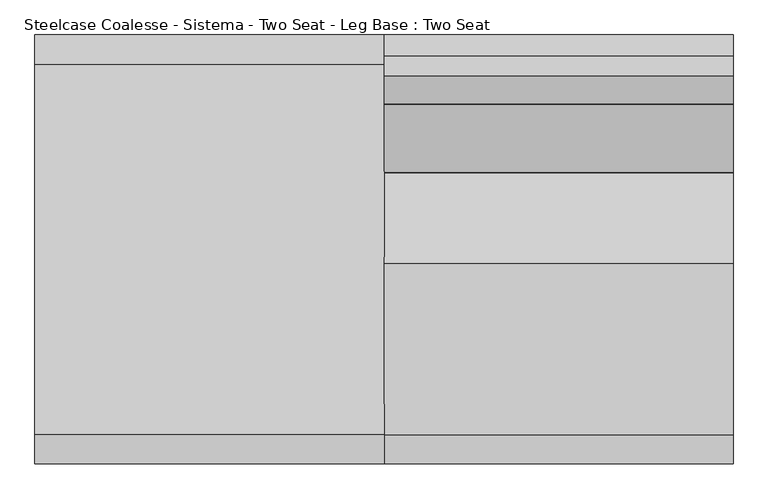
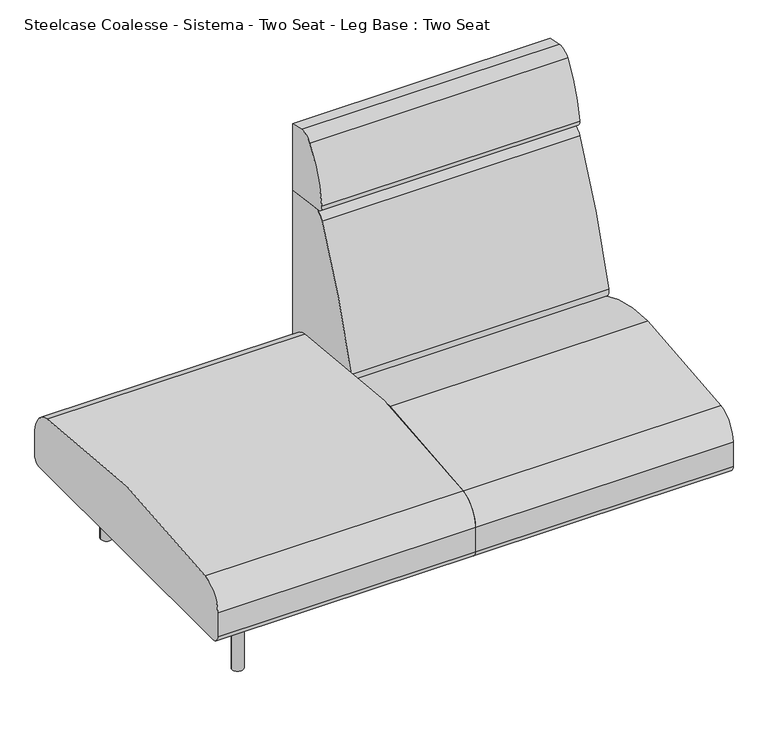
"""IFC4 building model written with IfcOpenShell, lengths in millimetres: furniture geometry, Steelcase Coalesse - Sistema - Two Seat - Leg Base : Two Seat."""

from ifc_helpers import new_model, si_unit, point, frame, frame_2d, origin, origin_with_axes, place, context, project, spatial, polyline, circle_curve, trimmed, segment, composite_curve, outline, extrude, source, transform, mapped, element, save


def steelcase_coalesse_sistema_two_seat_leg_base_two_seat_686d7517(model_context):
    return source(origin(), model_context, "Body", "SweptSolid", [
        extrude(outline(composite_curve([segment(trimmed(circle_curve(frame_2d((-438.9184381, 226.822)), 22.352), [point((-438.9184381, 204.47))], [point((-461.2704381, 226.822))], False, "CARTESIAN"), True, "CONTINUOUS"), segment(polyline([(-461.2704381, 226.822), (-461.2704381, 301.4421993)]), True, "CONTINUOUS"), segment(trimmed(circle_curve(frame_2d((-385.0704381, 301.4421993)), 76.2), [point((-461.2704381, 301.4421993))], [point((-398.9279534, 376.3715612))], False, "CARTESIAN"), True, "CONTINUOUS"), segment(trimmed(circle_curve(frame_2d((-0.3717831, -1778.6727457)), 2191.5891461), [point((-398.9279534, 376.3715612))], [point((397.0993513, 376.5719464))], False, "CARTESIAN"), True, "CONTINUOUS"), segment(trimmed(circle_curve(frame_2d((383.2795619, 301.6356173)), 76.2), [point((397.0993513, 376.5719464))], [point((459.4795619, 301.6356173))], False, "CARTESIAN"), True, "CONTINUOUS"), segment(polyline([(459.4795619, 301.6356173), (459.4795619, 226.7871991)]), True, "CONTINUOUS"), segment(trimmed(circle_curve(frame_2d((437.1623628, 226.7871991)), 22.3171991), [point((459.4795619, 226.7871991))], [point((437.1623628, 204.47))], False, "CARTESIAN"), True, "CONTINUOUS"), segment(polyline([(437.1623628, 204.47), (-438.9184381, 204.47)]), True, "CONTINUOUS")], self_intersect=False)), frame((-374.8034773, 0.0, 0.0), z_axis=(1.0, 0.0, 0.0), x_axis=(0.0, 1.0, 0.0)), (0.0, 0.0, 1.0), 749.3),
        extrude(outline(composite_curve([segment(polyline([(459.4795619, 985.4592709), (459.4795619, 780.845009), (327.9700683, 799.327463)]), True, "CONTINUOUS"), segment(trimmed(circle_curve(frame_2d((330.6213159, 818.1920697)), 19.05), [point((327.9700683, 799.327463))], [point((311.7521971, 820.8110119))], False, "CARTESIAN"), True, "CONTINUOUS"), segment(trimmed(circle_curve(frame_2d((679.5815991, 769.7580741)), 371.3554516), [point((311.7521971, 820.8110119))], [point((372.1246101, 978.0249014))], False, "CARTESIAN"), True, "CONTINUOUS"), segment(trimmed(circle_curve(frame_2d((405.8944569, 955.1497055)), 40.7881985), [point((372.1246101, 978.0249014))], [point((414.3748002, 995.046584))], False, "CARTESIAN"), True, "CONTINUOUS"), segment(polyline([(414.3748002, 995.046584), (459.4795619, 985.4592709)]), True, "CONTINUOUS")], self_intersect=False)), frame((374.4965227, 0.0, 0.0), z_axis=(1.0, 0.0, 0.0), x_axis=(0.0, 1.0, 0.0)), (0.0, 0.0, 1.0), 749.3),
        extrude(outline(composite_curve([segment(polyline([(459.4795619, 780.845009), (459.4795619, 228.1929806)]), True, "CONTINUOUS"), segment(trimmed(circle_curve(frame_2d((191.495971, 228.1929806)), 267.983591), [point((459.4795619, 228.1929806))], [point((458.9860775, 211.937276))], False, "CARTESIAN"), True, "CONTINUOUS"), segment(polyline([(458.9860775, 211.937276), (177.4990556, 364.1028799)]), True, "CONTINUOUS"), segment(trimmed(circle_curve(frame_2d((189.5778307, 386.4470781)), 25.4), [point((177.4990556, 364.1028799))], [point((164.9600055, 392.7018911))], False, "CARTESIAN"), True, "CONTINUOUS"), segment(trimmed(circle_curve(frame_2d((1918.112812, -52.7331923)), 1808.8552115), [point((164.9600055, 392.7018911))], [point((310.2880264, 776.0349508))], False, "CARTESIAN"), True, "CONTINUOUS"), segment(trimmed(circle_curve(frame_2d((344.1537133, 758.5785695)), 38.1), [point((310.2880264, 776.0349508))], [point((349.4562085, 796.3077829))], False, "CARTESIAN"), True, "CONTINUOUS"), segment(polyline([(349.4562085, 796.3077829), (459.4795619, 780.845009)]), True, "CONTINUOUS")], self_intersect=False)), frame((374.4965227, 0.0, 0.0), z_axis=(1.0, 0.0, 0.0), x_axis=(0.0, 1.0, 0.0)), (0.0, 0.0, 1.0), 749.3),
        extrude(outline(composite_curve([segment(trimmed(circle_curve(frame_2d((-438.9184381, 226.822)), 22.352), [point((-438.9184381, 204.47))], [point((-461.2704381, 226.822))], False, "CARTESIAN"), True, "CONTINUOUS"), segment(polyline([(-461.2704381, 226.822), (-461.2704381, 301.4421993)]), True, "CONTINUOUS"), segment(trimmed(circle_curve(frame_2d((-385.0704381, 301.4421993)), 76.2), [point((-461.2704381, 301.4421993))], [point((-398.9277015, 376.3716077))], False, "CARTESIAN"), True, "CONTINUOUS"), segment(trimmed(circle_curve(frame_2d((2.2103559, -1792.6740646)), 2205.8265729), [point((-398.9277015, 376.3716077))], [point((-31.1968175, 412.8995185))], False, "CARTESIAN"), True, "CONTINUOUS"), segment(trimmed(circle_curve(frame_2d((-24.5128424, -28.3829182)), 441.333054), [point((-31.1968175, 412.8995185))], [point((184.5757008, 360.2774035))], False, "CARTESIAN"), True, "CONTINUOUS"), segment(polyline([(184.5757008, 360.2774035), (458.9860775, 211.937276)]), True, "CONTINUOUS"), segment(trimmed(circle_curve(frame_2d((442.3266309, 226.7871991)), 22.3171991), [point((458.9860775, 211.937276))], [point((442.3266309, 204.47))], False, "CARTESIAN"), True, "CONTINUOUS"), segment(polyline([(442.3266309, 204.47), (-438.9184381, 204.47)]), True, "CONTINUOUS")], self_intersect=False)), frame((374.4965227, 0.0, 0.0), z_axis=(1.0, 0.0, 0.0), x_axis=(0.0, 1.0, 0.0)), (0.0, 0.0, 1.0), 749.3),
        extrude(outline(composite_curve([segment(trimmed(circle_curve(frame_2d((-240.1834773, 335.9943389)), 6.096), [point((-246.2794773, 335.9943389))], [point((-234.0874773, 335.9943389))], False, "CARTESIAN"), True, "CONTINUOUS"), segment(trimmed(circle_curve(frame_2d((-240.1834773, 335.9943389)), 6.096), [point((-234.0874773, 335.9943389))], [point((-246.2794773, 335.9943389))], False, "CARTESIAN"), True, "CONTINUOUS")], self_intersect=False)), origin_with_axes(), (0.0, 0.0, 1.0), 4.3662291),
        extrude(outline(composite_curve([segment(trimmed(circle_curve(frame_2d((-240.1834773, -327.2630889)), 6.096), [point((-246.2794773, -327.2630889))], [point((-234.0874773, -327.2630889))], False, "CARTESIAN"), True, "CONTINUOUS"), segment(trimmed(circle_curve(frame_2d((-240.1834773, -327.2630889)), 6.096), [point((-234.0874773, -327.2630889))], [point((-246.2794773, -327.2630889))], False, "CARTESIAN"), True, "CONTINUOUS")], self_intersect=False)), origin_with_axes(), (0.0, 0.0, 1.0), 4.3662291),
        extrude(outline(composite_curve([segment(trimmed(circle_curve(frame_2d((157.0399209, -249.7153296)), 3.048), [point((157.0399209, -252.7633296))], [point((153.9919209, -249.7153296))], False, "CARTESIAN"), True, "CONTINUOUS"), segment(polyline([(153.9919209, -249.7153296), (153.9919209, -230.4582264)]), True, "CONTINUOUS"), segment(trimmed(circle_curve(frame_2d((157.1249936, -230.4582264)), 3.1330728), [point((153.9919209, -230.4582264))], [point((157.1249936, -227.3251537))], False, "CARTESIAN"), True, "CONTINUOUS"), segment(polyline([(157.1249936, -227.3251537), (201.7356243, -227.3251537)]), True, "CONTINUOUS"), segment(trimmed(circle_curve(frame_2d((201.7356243, -230.3731537)), 3.048), [point((201.7356243, -227.3251537))], [point((204.7836243, -230.3731537))], False, "CARTESIAN"), True, "CONTINUOUS"), segment(polyline([(204.7836243, -230.3731537), (204.7836243, -249.7153296)]), True, "CONTINUOUS"), segment(trimmed(circle_curve(frame_2d((201.7356243, -249.7153296)), 3.048), [point((204.7836243, -249.7153296))], [point((201.7356243, -252.7633296))], False, "CARTESIAN"), True, "CONTINUOUS"), segment(polyline([(201.7356243, -252.7633296), (157.0399209, -252.7633296)]), True, "CONTINUOUS")], self_intersect=False)), frame((0.0, 222.3519802, 0.0), z_axis=(0.0, 1.0, 0.0), x_axis=(0.0, 0.0, 1.0)), (0.0, 0.0, 1.0), 92.6273161),
        extrude(outline(composite_curve([segment(trimmed(circle_curve(frame_2d((157.0399209, -249.7153296)), 3.048), [point((157.0399209, -252.7633296))], [point((153.9919209, -249.7153296))], False, "CARTESIAN"), True, "CONTINUOUS"), segment(polyline([(153.9919209, -249.7153296), (153.9919209, -230.4582264)]), True, "CONTINUOUS"), segment(trimmed(circle_curve(frame_2d((157.1249936, -230.4582264)), 3.1330728), [point((153.9919209, -230.4582264))], [point((157.1249936, -227.3251537))], False, "CARTESIAN"), True, "CONTINUOUS"), segment(polyline([(157.1249936, -227.3251537), (201.7356243, -227.3251537)]), True, "CONTINUOUS"), segment(trimmed(circle_curve(frame_2d((201.7356243, -230.3731537)), 3.048), [point((201.7356243, -227.3251537))], [point((204.7836243, -230.3731537))], False, "CARTESIAN"), True, "CONTINUOUS"), segment(polyline([(204.7836243, -230.3731537), (204.7836243, -249.7153296)]), True, "CONTINUOUS"), segment(trimmed(circle_curve(frame_2d((201.7356243, -249.7153296)), 3.048), [point((204.7836243, -249.7153296))], [point((201.7356243, -252.7633296))], False, "CARTESIAN"), True, "CONTINUOUS"), segment(polyline([(201.7356243, -252.7633296), (157.0399209, -252.7633296)]), True, "CONTINUOUS")], self_intersect=False)), frame((0.0, -314.9792963, 0.0), z_axis=(0.0, 1.0, 0.0), x_axis=(0.0, 0.0, 1.0)), (0.0, 0.0, 1.0), 92.6273161),
        extrude(outline(composite_curve([segment(polyline([(179.3836606, -217.532949), (179.3836606, -262.2370459)]), True, "CONTINUOUS"), segment(trimmed(circle_curve(frame_2d((176.3356606, -262.2370459)), 3.048), [point((179.3836606, -262.2370459))], [point((176.3356606, -265.2850459))], False, "CARTESIAN"), True, "CONTINUOUS"), segment(polyline([(176.3356606, -265.2850459), (157.056462, -265.2850459)]), True, "CONTINUOUS"), segment(trimmed(circle_curve(frame_2d((157.056462, -262.2205047)), 3.0645412), [point((157.056462, -265.2850459))], [point((153.9919209, -262.2205047))], False, "CARTESIAN"), True, "CONTINUOUS"), segment(polyline([(153.9919209, -262.2205047), (153.9919209, -217.532949)]), True, "CONTINUOUS"), segment(trimmed(circle_curve(frame_2d((157.0399209, -217.532949)), 3.048), [point((153.9919209, -217.532949))], [point((157.0399209, -214.484949))], False, "CARTESIAN"), True, "CONTINUOUS"), segment(polyline([(157.0399209, -214.484949), (176.3356606, -214.484949)]), True, "CONTINUOUS"), segment(trimmed(circle_curve(frame_2d((176.3356606, -217.532949)), 3.048), [point((176.3356606, -214.484949))], [point((179.3836606, -217.532949))], False, "CARTESIAN"), True, "CONTINUOUS")], self_intersect=False)), frame((0.0, -222.3519802, 0.0), z_axis=(0.0, 1.0, 0.0), x_axis=(0.0, 0.0, 1.0)), (0.0, 0.0, 1.0), 444.7039604),
        extrude(outline(composite_curve([segment(trimmed(circle_curve(frame_2d((-240.1834773, 332.3095741)), 16.51), [point((-256.6934773, 332.3095741))], [point((-223.6734773, 332.3095741))], False, "CARTESIAN"), True, "CONTINUOUS"), segment(trimmed(circle_curve(frame_2d((-240.1834773, 332.3095741)), 16.51), [point((-223.6734773, 332.3095741))], [point((-256.6934773, 332.3095741))], False, "CARTESIAN"), True, "CONTINUOUS")], self_intersect=False)), frame((0.0, 0.0, 4.3662291), z_axis=(0.0, 0.0, 1.0), x_axis=(1.0, 0.0, 0.0)), (0.0, 0.0, 1.0), 200.1037709),
        extrude(outline(composite_curve([segment(trimmed(circle_curve(frame_2d((-239.7866023, -327.5470741)), 16.51), [point((-256.2966023, -327.5470741))], [point((-223.2766023, -327.5470741))], False, "CARTESIAN"), True, "CONTINUOUS"), segment(trimmed(circle_curve(frame_2d((-239.7866023, -327.5470741)), 16.51), [point((-223.2766023, -327.5470741))], [point((-256.2966023, -327.5470741))], False, "CARTESIAN"), True, "CONTINUOUS")], self_intersect=False)), frame((0.0, 0.0, 4.3662291), z_axis=(0.0, 0.0, 1.0), x_axis=(1.0, 0.0, 0.0)), (0.0, 0.0, 1.0), 200.1037709),
    ])


if __name__ == "__main__":
    model = new_model("IFC4")
    model_context = context("Model", 3, world=origin())
    ifc_project = project(units=[si_unit("LENGTHUNIT", "METRE", prefix="MILLI")], contexts=[model_context])
    site = spatial("IfcSite", under=ifc_project)
    building = spatial("IfcBuilding", under=site)
    placement = place(None, origin())
    steelcase_coalesse_sistema_two_seat_leg_base_two_seat_shape = steelcase_coalesse_sistema_two_seat_leg_base_two_seat_686d7517(model_context)
    element("IfcFurniture", 1, ObjectType="Steelcase Coalesse - Sistema - Two Seat - Leg Base : Two Seat", at=placement, inside=building, context=model_context, shape_type="MappedRepresentation", body=[
        mapped(steelcase_coalesse_sistema_two_seat_leg_base_two_seat_shape, transform((0.0, 0.0, 0.0), x_axis=(1.0, 0.0, 0.0), y_axis=(0.0, 1.0, 0.0), z_axis=(0.0, 0.0, 1.0))),
    ])
    save(model, "model.ifc")
